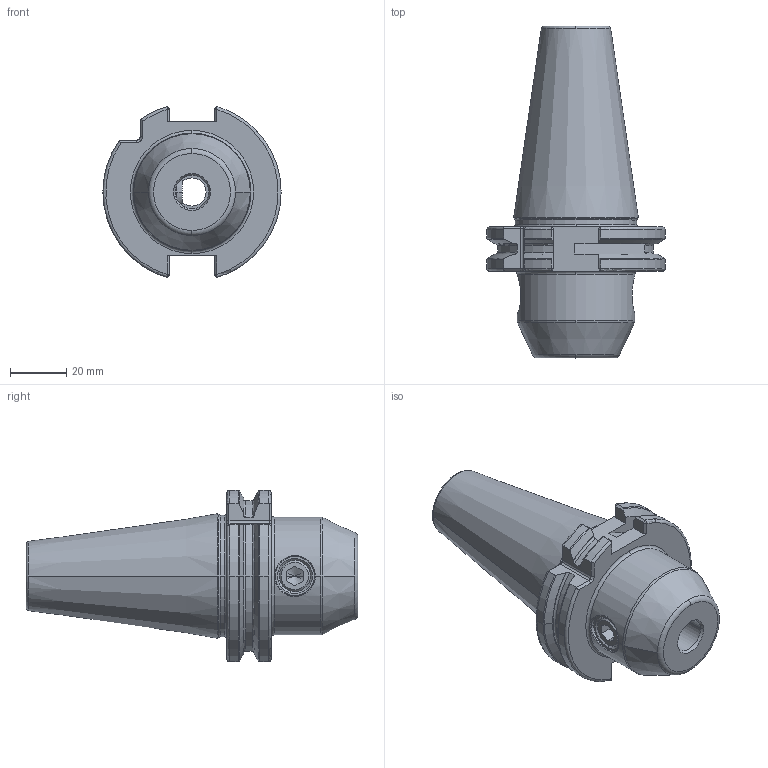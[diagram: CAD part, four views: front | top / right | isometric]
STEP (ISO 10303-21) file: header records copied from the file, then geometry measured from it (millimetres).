
FILE_DESCRIPTION (( 'STEP AP214' ), '1' );
FILE_NAME ('04-0519.STEP', '2022-02-02T18:14:27', ( '' ), ( '' ), 'SwSTEP 2.0', 'SolidWorks 2021', '' );
FILE_SCHEMA (( 'AUTOMOTIVE_DESIGN' ));
Length unit declared in the file: inch
Products named in the file (1): 04-0519
Bounding box: 63.55 x 118.4 x 61.05 mm (x, y, z)
Volume: 133983.2 mm3; surface area: 25070.8 mm2
Topology: 1 solids, 1 shells, 194 faces, 502 edges, 312 vertices
Faces by surface type: plane 57, cylinder 43, cone 40, torus 34, bspline 18, sphere 2
Entity records: 9873 total; most frequent: CARTESIAN_POINT 2739, ORIENTED_EDGE 996, DIRECTION 931, EDGE_CURVE 498, AXIS2_PLACEMENT_3D 366, VERTEX_POINT 312, EDGE_LOOP 202, LINE 199
